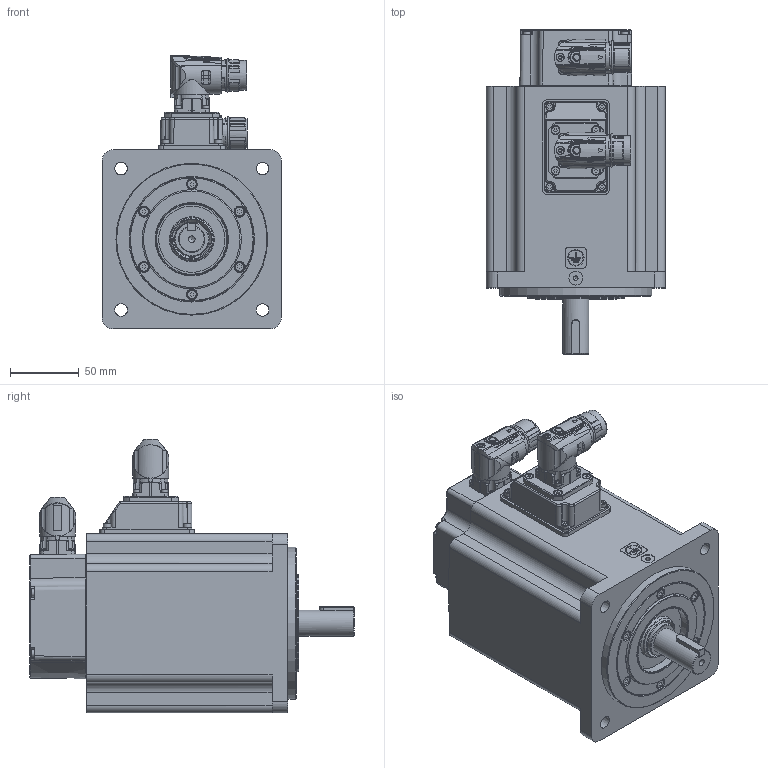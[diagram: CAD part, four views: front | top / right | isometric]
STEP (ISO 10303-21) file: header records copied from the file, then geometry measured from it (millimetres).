
FILE_DESCRIPTION( ( 'Unknown' ), '1' );
FILE_NAME( 'U:/05_Progetto TCE/010-TCE motor drawings/TCE130/Vuoti/TCE130 5D XX 3 A2 0 C2.stp', 'Unknown', ( 'Unknown' ), ( 'Unknown' ), 'PSStep 17.0.49', 'Unknown', ' ' );
FILE_SCHEMA( ( 'AUTOMOTIVE_DESIGN { 1 0 10303 214 1 1 1 1 }' ) );
Length unit declared in the file: millimetre
Products named in the file (13): 005123001528
Bounding box: 130.3 x 235 x 198.5 mm (x, y, z)
Volume: 1086519.1 mm3; surface area: 325840.2 mm2
Topology: 13 solids, 91 shells, 2936 faces, 7319 edges, 4722 vertices
Faces by surface type: plane 1419, cylinder 708, cone 292, bspline 231, torus 167, sphere 81, extrusion 38
Full cylindrical faces by diameter (mm): 0.5 x1, 1 x21, 1.2 x17, 1.4 x4, 2 x4, 2.013 x4, 2.2 x2, 2.459 x24, 2.5 x8, 2.6 x4, 2.8 x4, 3 x28, 3.242 x24, 3.5 x8, 4 x15, 4.134 x16, 4.4 x4, 4.5 x8, 4.7 x4, 4.917 x2, 5 x8, 5.5 x18, 5.8 x1, 5.9 x2, 6.8 x1, 7 x10, 8 x13, 8.5 x8, 10 x1, 10.5 x8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
Entity records: 120823 total; most frequent: CARTESIAN_POINT 36651, DIRECTION 12872, ORIENTED_EDGE 12544, EDGE_CURVE 6272, AXIS2_PLACEMENT_3D 4840, VERTEX_POINT 4449, EDGE_LOOP 3907, FACE_OUTER_BOUND 3399
